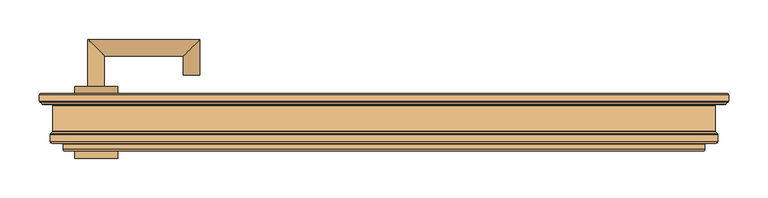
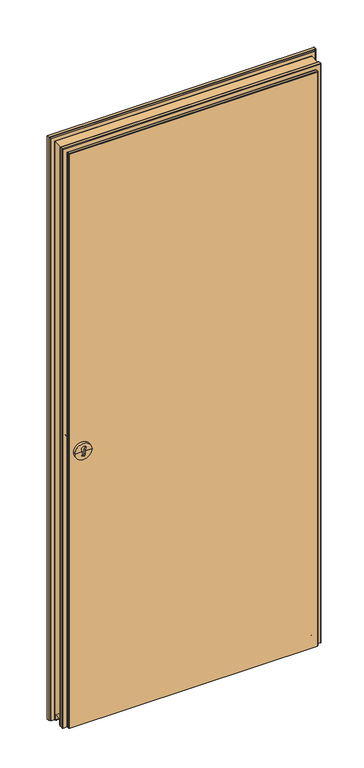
"""IFC4 building model written with IfcOpenShell, lengths in millimetres: door geometry, Peneder_HIGHLINEflat_1-flügelig_V2019 : Zargentyp - 01 - Eck 60 DN."""

from ifc_helpers import new_model, si_unit, frame, origin, place, context, project, spatial, polyline, circle_curve, ellipse_curve, source, transform, mapped, element, save
from ifc_brep_helpers import plane_surface, cylinder_surface, revolved_surface, advanced_brep


def door_c84f8a6b(model_context):
    return source(origin(), model_context, "Body", "AdvancedBrep", [
        advanced_brep(
        [(-337.5, 56.0, 958.0), (-392.5, 56.0, 958.0), (-392.5, 65.0, 958.0), (-337.5, 65.0, 958.0), (-360.0, 56.0, 958.0), (-360.0, 56.0, 945.8645067), (-370.0, 56.0, 945.8645067), (-370.0, 56.0, 958.0), (-370.0, 56.0, 960.8645067), (-360.0, 56.0, 960.8645067), (-365.0, 65.0, 958.0), (-370.0, 62.0, 945.8645067), (-360.0, 62.0, 945.8645067), (-360.0, 62.0, 960.8645067), (-370.0, 62.0, 960.8645067)],
        [
            (0, 1, circle_curve(frame((-365.0, 56.0, 958.0), z_axis=(0.0, 1.0, 0.0), x_axis=(-1.0, 0.0, 0.0)), 27.5)),
            (1, 2),
            (2, 3, circle_curve(frame((-365.0, 65.0, 958.0), z_axis=(0.0, -1.0, 0.0), x_axis=(-1.0, 0.0, 0.0)), 27.5)),
            (3, 0),
            (1, 0, circle_curve(frame((-365.0, 56.0, 958.0), z_axis=(0.0, 1.0, 0.0), x_axis=(-1.0, 0.0, 0.0)), 27.5)),
            (3, 2, circle_curve(frame((-365.0, 65.0, 958.0), z_axis=(0.0, -1.0, 0.0), x_axis=(-1.0, 0.0, 0.0)), 27.5)),
            (0, 4),
            (4, 5),
            (5, 6, circle_curve(frame((-365.0, 56.0, 945.8645067), z_axis=(0.0, 1.0, 0.0), x_axis=(-1.0, 0.0, 0.0)), 5.0)),
            (6, 7),
            (7, 1),
            (7, 8),
            (8, 9, circle_curve(frame((-365.0, 56.0, 967.690169), z_axis=(0.0, 1.0, 0.0), x_axis=(-1.0, 0.0, 0.0)), 8.4610677)),
            (9, 4),
            (2, 10),
            (10, 3),
            (11, 12, circle_curve(frame((-365.0, 62.0, 945.8645067), z_axis=(0.0, -1.0, 0.0), x_axis=(-1.0, 0.0, 0.0)), 5.0)),
            (12, 13),
            (13, 14, circle_curve(frame((-365.0, 62.0, 967.690169), z_axis=(0.0, -1.0, 0.0), x_axis=(-1.0, 0.0, 0.0)), 8.4610677)),
            (14, 11),
            (11, 6),
            (5, 12),
            (9, 13),
            (8, 14),
        ],
        [
            cylinder_surface(frame((-365.0, 72.1832023, 958.0), z_axis=(0.0, -1.0, 0.0), x_axis=(-1.0, 0.0, 0.0)), 27.5),
            plane_surface(frame((-365.0, 56.0, 958.0), z_axis=(0.0, -1.0, 0.0), x_axis=(-1.0, 0.0, 0.0))),
            plane_surface(frame((-365.0, 65.0, 958.0), z_axis=(0.0, 1.0, 0.0), x_axis=(-1.0, 0.0, 0.0))),
            plane_surface(frame((-370.0, 62.0, 960.8645067), z_axis=(0.0, -1.0, 0.0), x_axis=(0.0, 0.0, 1.0))),
            revolved_surface(polyline([(-370.0, 62.0, 945.8645067), (-370.0, 56.0, 945.8645067)]), (-365.0, 52.0, 945.8645067), (0.0, 1.0, 0.0)),
            plane_surface(frame((-360.0, 62.0, 960.8645067), z_axis=(-1.0, 0.0, 0.0), x_axis=(0.0, -1.0, 0.0))),
            revolved_surface(polyline([(-373.4610677, 62.0, 967.690169), (-373.4610677, 56.0, 967.690169)]), (-365.0, 52.0, 967.690169), (0.0, 1.0, 0.0)),
            plane_surface(frame((-370.0, 62.0, 945.8645067), z_axis=(1.0, 0.0, 0.0), x_axis=(0.0, -1.0, 0.0))),
        ],
        [
            (0, [[1, 2, 3, 4]]),
            (0, [[-2, 5, -4, 6]]),
            (1, [[-1, 7, 8, 9, 10, 11]]),
            (1, [[-5, -11, 12, 13, 14, -7]]),
            (2, [[-3, 15, 16]]),
            (2, [[-6, -16, -15]]),
            (3, [[17, 18, 19, 20]]),
            (4, [[-17, 21, -9, 22]]),
            (5, [[-18, -22, -8, -14, 23]]),
            (6, [[-19, -23, -13, 24]]),
            (7, [[-20, -24, -12, -10, -21]]),
        ],
    ),
        advanced_brep(
        [(-375.5, 147.0, 1050.0), (-354.5, 147.0, 1050.0), (-354.5, 186.0, 1050.0), (-375.5, 207.0, 1050.0), (-254.5, 186.0, 1050.0), (-233.5, 207.0, 1050.0), (-233.5, 162.0, 1050.0), (-254.5, 162.0, 1050.0)],
        [
            (0, 1, circle_curve(frame((-365.0, 147.0, 1050.0), z_axis=(0.0, -1.0, 0.0), x_axis=(1.0, 0.0, 0.0)), 10.5)),
            (1, 0, circle_curve(frame((-365.0, 147.0, 1050.0), z_axis=(0.0, -1.0, 0.0), x_axis=(1.0, 0.0, 0.0)), 10.5)),
            (1, 2),
            (2, 3, ellipse_curve(frame((-365.0, 196.5, 1050.0), z_axis=(-0.7071067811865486, -0.7071067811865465, 0.0), x_axis=(0.7071067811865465, -0.7071067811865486, 0.0)), 14.8492424, 10.5)),
            (3, 0),
            (3, 2, ellipse_curve(frame((-365.0, 196.5, 1050.0), z_axis=(-0.7071067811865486, -0.7071067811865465, 0.0), x_axis=(0.7071067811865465, -0.7071067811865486, 0.0)), 14.8492424, 10.5)),
            (2, 4),
            (4, 5, ellipse_curve(frame((-244.0, 196.5, 1050.0), z_axis=(-0.7071067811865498, 0.7071067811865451, 0.0), x_axis=(-0.7071067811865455, -0.7071067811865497, 0.0)), 14.8492424, 10.5)),
            (5, 3),
            (5, 4, ellipse_curve(frame((-244.0, 196.5, 1050.0), z_axis=(-0.7071067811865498, 0.7071067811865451, 0.0), x_axis=(-0.7071067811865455, -0.7071067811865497, 0.0)), 14.8492424, 10.5)),
            (6, 7, circle_curve(frame((-244.0, 162.0, 1050.0), z_axis=(0.0, -1.0, 0.0), x_axis=(-1.0, 0.0, 0.0)), 10.5)),
            (7, 6, circle_curve(frame((-244.0, 162.0, 1050.0), z_axis=(0.0, -1.0, 0.0), x_axis=(-1.0, 0.0, 0.0)), 10.5)),
            (4, 7),
            (6, 5),
        ],
        [
            plane_surface(frame((-365.0, 147.0, 1050.0), z_axis=(0.0, -1.0, 0.0), x_axis=(0.0, 0.0, 1.0))),
            cylinder_surface(frame((-365.0, 147.0, 1050.0), z_axis=(0.0, -1.0, 0.0), x_axis=(1.0, 0.0, 0.0)), 10.5),
            cylinder_surface(frame((-365.0, 196.5, 1050.0), z_axis=(-1.0, 0.0, 0.0), x_axis=(0.0, -1.0, 0.0)), 10.5),
            plane_surface(frame((-244.0, 162.0, 1050.0), z_axis=(0.0, -1.0, 0.0), x_axis=(0.0, 0.0, 1.0))),
            cylinder_surface(frame((-244.0, 196.5, 1050.0), z_axis=(0.0, 1.0, 0.0), x_axis=(-1.0, 0.0, 0.0)), 10.5),
        ],
        [
            (0, [[1, 2]]),
            (1, [[3, 4, 5, -2]]),
            (1, [[-5, 6, -3, -1]]),
            (2, [[7, 8, 9, -4]]),
            (2, [[-9, 10, -7, -6]]),
            (3, [[11, 12]]),
            (4, [[13, -11, 14, -8]]),
            (4, [[-14, -12, -13, -10]]),
        ],
    ),
        advanced_brep(
        [(-337.5, 147.0, 1050.0), (-337.5, 138.0, 1050.0), (-392.5, 138.0, 1050.0), (-392.5, 147.0, 1050.0), (-365.0, 147.0, 1050.0), (-365.0, 138.0, 1050.0)],
        [
            (0, 1),
            (1, 2, circle_curve(frame((-365.0, 138.0, 1050.0), z_axis=(0.0, 1.0, 0.0), x_axis=(-1.0, 0.0, 0.0)), 27.5)),
            (2, 3),
            (3, 0, circle_curve(frame((-365.0, 147.0, 1050.0), z_axis=(0.0, -1.0, 0.0), x_axis=(-1.0, 0.0, 0.0)), 27.5)),
            (2, 1, circle_curve(frame((-365.0, 138.0, 1050.0), z_axis=(0.0, 1.0, 0.0), x_axis=(-1.0, 0.0, 0.0)), 27.5)),
            (0, 3, circle_curve(frame((-365.0, 147.0, 1050.0), z_axis=(0.0, -1.0, 0.0), x_axis=(-1.0, 0.0, 0.0)), 27.5)),
            (4, 0),
            (3, 4),
            (1, 5),
            (5, 2),
        ],
        [
            cylinder_surface(frame((-365.0, 120.2392865, 1050.0), z_axis=(0.0, 1.0, 0.0), x_axis=(-1.0, 0.0, 0.0)), 27.5),
            plane_surface(frame((-365.0, 147.0, 1050.0), z_axis=(0.0, 1.0, 0.0), x_axis=(-1.0, 0.0, 0.0))),
            plane_surface(frame((-365.0, 138.0, 1050.0), z_axis=(0.0, -1.0, 0.0), x_axis=(-1.0, 0.0, 0.0))),
        ],
        [
            (0, [[1, 2, 3, 4]]),
            (0, [[-3, 5, -1, 6]]),
            (1, [[7, -4, 8]]),
            (1, [[-8, -6, -7]]),
            (2, [[9, 10, -2]]),
            (2, [[-10, -9, -5]]),
        ],
    ),
        advanced_brep(
        [(-337.5, 147.0, 958.0), (-337.5, 138.0, 958.0), (-392.5, 138.0, 958.0), (-392.5, 147.0, 958.0), (-370.0, 147.0, 958.0), (-370.0, 147.0, 945.8645067), (-360.0, 147.0, 945.8645067), (-360.0, 147.0, 958.0), (-360.0, 147.0, 960.8645067), (-370.0, 147.0, 960.8645067), (-365.0, 138.0, 958.0), (-370.0, 141.0, 945.8645067), (-370.0, 141.0, 960.8645067), (-360.0, 141.0, 960.8645067), (-360.0, 141.0, 945.8645067)],
        [
            (0, 1),
            (1, 2, circle_curve(frame((-365.0, 138.0, 958.0), z_axis=(0.0, 1.0, 0.0), x_axis=(-1.0, 0.0, 0.0)), 27.5)),
            (2, 3),
            (3, 0, circle_curve(frame((-365.0, 147.0, 958.0), z_axis=(0.0, -1.0, 0.0), x_axis=(-1.0, 0.0, 0.0)), 27.5)),
            (2, 1, circle_curve(frame((-365.0, 138.0, 958.0), z_axis=(0.0, 1.0, 0.0), x_axis=(-1.0, 0.0, 0.0)), 27.5)),
            (0, 3, circle_curve(frame((-365.0, 147.0, 958.0), z_axis=(0.0, -1.0, 0.0), x_axis=(-1.0, 0.0, 0.0)), 27.5)),
            (3, 4),
            (4, 5),
            (5, 6, circle_curve(frame((-365.0, 147.0, 945.8645067), z_axis=(0.0, -1.0, 0.0), x_axis=(-1.0, 0.0, 0.0)), 5.0)),
            (6, 7),
            (7, 0),
            (7, 8),
            (8, 9, circle_curve(frame((-365.0, 147.0, 967.690169), z_axis=(0.0, -1.0, 0.0), x_axis=(-1.0, 0.0, 0.0)), 8.4610677)),
            (9, 4),
            (1, 10),
            (10, 2),
            (11, 12),
            (12, 13, circle_curve(frame((-365.0, 141.0, 967.690169), z_axis=(0.0, 1.0, 0.0), x_axis=(-1.0, 0.0, 0.0)), 8.4610677)),
            (13, 14),
            (14, 11, circle_curve(frame((-365.0, 141.0, 945.8645067), z_axis=(0.0, 1.0, 0.0), x_axis=(-1.0, 0.0, 0.0)), 5.0)),
            (14, 6),
            (5, 11),
            (13, 8),
            (12, 9),
        ],
        [
            cylinder_surface(frame((-365.0, 130.8167977, 958.0), z_axis=(0.0, 1.0, 0.0), x_axis=(-1.0, 0.0, 0.0)), 27.5),
            plane_surface(frame((-365.0, 147.0, 958.0), z_axis=(0.0, 1.0, 0.0), x_axis=(-1.0, 0.0, 0.0))),
            plane_surface(frame((-365.0, 138.0, 958.0), z_axis=(0.0, -1.0, 0.0), x_axis=(-1.0, 0.0, 0.0))),
            plane_surface(frame((-370.0, 141.0, 960.8645067), z_axis=(0.0, 1.0, 0.0), x_axis=(0.0, 0.0, 1.0))),
            revolved_surface(polyline([(-370.0, 141.0, 945.8645067), (-370.0, 147.0, 945.8645067)]), (-365.0, 151.0, 945.8645067), (0.0, -1.0, 0.0)),
            plane_surface(frame((-360.0, 141.0, 960.8645067), z_axis=(-1.0, 0.0, 0.0), x_axis=(0.0, 1.0, 0.0))),
            revolved_surface(polyline([(-373.4610677, 141.0, 967.690169), (-373.4610677, 147.0, 967.690169)]), (-365.0, 151.0, 967.690169), (0.0, -1.0, 0.0)),
            plane_surface(frame((-370.0, 141.0, 945.8645067), z_axis=(1.0, 0.0, 0.0), x_axis=(0.0, 1.0, 0.0))),
        ],
        [
            (0, [[1, 2, 3, 4]]),
            (0, [[5, -1, 6, -3]]),
            (1, [[7, 8, 9, 10, 11, -4]]),
            (1, [[-11, 12, 13, 14, -7, -6]]),
            (2, [[15, 16, -2]]),
            (2, [[-16, -15, -5]]),
            (3, [[17, 18, 19, 20]]),
            (4, [[21, -9, 22, -20]]),
            (5, [[23, -12, -10, -21, -19]]),
            (6, [[24, -13, -23, -18]]),
            (7, [[-22, -8, -14, -24, -17]]),
        ],
    ),
        advanced_brep(
        [(405.0, 65.0, 10.0), (-405.0, 65.0, 10.0), (-407.0, 67.0, 10.0), (-407.0, 74.0, 10.0), (-408.0, 75.0, 10.0), (-421.0, 75.0, 10.0), (-423.0, 77.0, 10.0), (-423.0, 86.1715729, 10.0), (-422.4142136, 87.5857864, 10.0), (-420.2928932, 89.7071068, 10.0), (-420.0, 90.4142136, 10.0), (-420.0, 94.5, 10.0), (420.0, 94.5, 10.0), (420.0, 90.4142136, 10.0), (420.2928932, 89.7071068, 10.0), (422.4142136, 87.5857864, 10.0), (423.0, 86.1715729, 10.0), (423.0, 77.0, 10.0), (421.0, 75.0, 10.0), (408.0, 75.0, 10.0), (407.0, 74.0, 10.0), (407.0, 67.0, 10.0), (-437.0, 128.8284271, 10.0), (-437.0, 136.0, 10.0), (-435.0, 138.0, 10.0), (435.0, 138.0, 10.0), (437.0, 136.0, 10.0), (437.0, 128.8284271, 10.0), (436.4142136, 127.4142136, 10.0), (433.5857864, 124.5857864, 10.0), (432.1715729, 124.0, 10.0), (421.0, 124.0, 10.0), (420.0, 123.0, 10.0), (420.0, 119.5, 10.0), (-420.0, 119.5, 10.0), (-420.0, 123.0, 10.0), (-421.0, 124.0, 10.0), (-432.1715729, 124.0, 10.0), (-433.5857864, 124.5857864, 10.0), (-436.4142136, 127.4142136, 10.0), (405.0, 65.0, 1992.0), (-405.0, 65.0, 1992.0), (-407.0, 67.0, 1994.0), (-407.0, 74.0, 1994.0), (-408.0, 75.0, 1995.0), (408.0, 75.0, 1995.0), (421.0, 75.0, 2008.0), (-421.0, 75.0, 2008.0), (-423.0, 77.0, 2010.0), (-423.0, 86.1715729, 2010.0), (-422.4142136, 87.5857864, 2009.4142136), (-420.2928932, 89.7071068, 2007.2928932), (-420.0, 90.4142136, 2007.0), (-420.0, 123.0, 2007.0), (-420.0, 117.5, 12.0), (-420.0, 117.5, 29.5), (-420.0, 116.5, 30.5), (-420.0, 97.5, 30.5), (-420.0, 96.5, 29.5), (-420.0, 96.5, 12.0), (420.0, 96.5, 12.0), (420.0, 123.0, 2007.0), (420.0, 90.4142136, 2007.0), (420.0, 96.5, 29.5), (420.0, 97.5, 30.5), (420.0, 116.5, 30.5), (420.0, 117.5, 29.5), (420.0, 117.5, 12.0), (420.2928932, 89.7071068, 2007.2928932), (422.4142136, 87.5857864, 2009.4142136), (423.0, 86.1715729, 2010.0), (423.0, 77.0, 2010.0), (407.0, 74.0, 1994.0), (407.0, 67.0, 1994.0), (-437.0, 128.8284271, 2024.0), (-437.0, 136.0, 2024.0), (-435.0, 138.0, 2022.0), (435.0, 138.0, 2022.0), (437.0, 136.0, 2024.0), (437.0, 128.8284271, 2024.0), (436.4142136, 127.4142136, 2023.4142136), (433.5857864, 124.5857864, 2020.5857864), (432.1715729, 124.0, 2019.1715729), (-421.0, 124.0, 2008.0), (421.0, 124.0, 2008.0), (-432.1715729, 124.0, 2019.1715729), (-433.5857864, 124.5857864, 2020.5857864), (-436.4142136, 127.4142136, 2023.4142136)],
        [
            (0, 1),
            (1, 2, circle_curve(frame((-405.0, 67.0, 10.0), z_axis=(0.0, 0.0, -1.0), x_axis=(0.0, -1.0, 0.0)), 2.0)),
            (2, 3),
            (3, 4, circle_curve(frame((-408.0, 74.0, 10.0), z_axis=(0.0, 0.0, 1.0), x_axis=(1.0, 0.0, 0.0)), 1.0)),
            (4, 5),
            (5, 6, circle_curve(frame((-421.0, 77.0, 10.0), z_axis=(0.0, 0.0, -1.0), x_axis=(0.0, -1.0, 0.0)), 2.0)),
            (6, 7),
            (7, 8, circle_curve(frame((-421.0, 86.1715729, 10.0), z_axis=(0.0, 0.0, -1.0), x_axis=(-1.0, 0.0, 0.0)), 2.0)),
            (8, 9),
            (9, 10, circle_curve(frame((-421.0, 90.4142136, 10.0), z_axis=(0.0, 0.0, 1.0), x_axis=(0.7071067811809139, -0.7071067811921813, 0.0)), 1.0)),
            (10, 11),
            (11, 12),
            (12, 13),
            (13, 14, circle_curve(frame((421.0, 90.4142136, 10.0), z_axis=(0.0, 0.0, 1.0), x_axis=(-0.707106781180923, -0.7071067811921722, 0.0)), 1.0)),
            (14, 15),
            (15, 16, circle_curve(frame((421.0, 86.1715729, 10.0), z_axis=(0.0, 0.0, -1.0), x_axis=(1.0, 0.0, 0.0)), 2.0)),
            (16, 17),
            (17, 18, circle_curve(frame((421.0, 77.0, 10.0), z_axis=(0.0, 0.0, -1.0), x_axis=(0.0, -1.0, 0.0)), 2.0)),
            (18, 19),
            (19, 20, circle_curve(frame((408.0, 74.0, 10.0), z_axis=(0.0, 0.0, 1.0), x_axis=(-1.0, 0.0, 0.0)), 1.0)),
            (20, 21),
            (21, 0, circle_curve(frame((405.0, 67.0, 10.0), z_axis=(0.0, 0.0, -1.0), x_axis=(0.0, -1.0, 0.0)), 2.0)),
            (22, 23),
            (23, 24, circle_curve(frame((-435.0, 136.0, 10.0), z_axis=(0.0, 0.0, -1.0), x_axis=(-1.0, 0.0, 0.0)), 2.0)),
            (24, 25),
            (25, 26, circle_curve(frame((435.0, 136.0, 10.0), z_axis=(0.0, 0.0, -1.0), x_axis=(1.0, 0.0, 0.0)), 2.0)),
            (26, 27),
            (27, 28, circle_curve(frame((435.0, 128.8284271, 10.0), z_axis=(0.0, 0.0, -1.0), x_axis=(0.7071067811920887, -0.7071067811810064, 0.0)), 2.0)),
            (28, 29),
            (29, 30, circle_curve(frame((432.1715729, 126.0, 10.0), z_axis=(0.0, 0.0, -1.0), x_axis=(0.0, -1.0, 0.0)), 2.0)),
            (30, 31),
            (31, 32, circle_curve(frame((421.0, 123.0, 10.0), z_axis=(0.0, 0.0, 1.0), x_axis=(-1.0, 0.0, 0.0)), 1.0)),
            (32, 33),
            (33, 34),
            (34, 35),
            (35, 36, circle_curve(frame((-421.0, 123.0, 10.0), z_axis=(0.0, 0.0, 1.0), x_axis=(1.0, 0.0, 0.0)), 1.0)),
            (36, 37),
            (37, 38, circle_curve(frame((-432.1715729, 126.0, 10.0), z_axis=(0.0, 0.0, -1.0), x_axis=(0.0, -1.0, 0.0)), 2.0)),
            (38, 39),
            (39, 22, circle_curve(frame((-435.0, 128.8284271, 10.0), z_axis=(0.0, 0.0, -1.0), x_axis=(-0.7071067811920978, -0.7071067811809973, 0.0)), 2.0)),
            (0, 40),
            (40, 41),
            (41, 1),
            (41, 42, ellipse_curve(frame((-405.0, 67.0, 1992.0), z_axis=(-0.7071067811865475, 0.0, -0.7071067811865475), x_axis=(-0.7071067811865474, 0.0, 0.7071067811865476)), 2.8284271, 2.0)),
            (42, 2),
            (42, 43),
            (43, 3),
            (43, 44, ellipse_curve(frame((-408.0, 74.0, 1995.0), z_axis=(0.7071067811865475, 0.0, 0.7071067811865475), x_axis=(0.7071067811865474, 0.0, -0.7071067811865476)), 1.4142136, 1.0)),
            (44, 4),
            (44, 45),
            (45, 19),
            (18, 46),
            (46, 47),
            (47, 5),
            (47, 48, ellipse_curve(frame((-421.0, 77.0, 2008.0), z_axis=(-0.7071067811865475, 0.0, -0.7071067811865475), x_axis=(-0.7071067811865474, 0.0, 0.7071067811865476)), 2.8284271, 2.0)),
            (48, 6),
            (48, 49),
            (49, 7),
            (49, 50, ellipse_curve(frame((-421.0, 86.1715729, 2008.0), z_axis=(-0.7071067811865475, 0.0, -0.7071067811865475), x_axis=(-0.7071067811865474, 0.0, 0.7071067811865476)), 2.8284271, 2.0)),
            (50, 8),
            (50, 51),
            (51, 9),
            (51, 52, ellipse_curve(frame((-421.0, 90.4142136, 2008.0), z_axis=(0.7071067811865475, 0.0, 0.7071067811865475), x_axis=(0.7071067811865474, 0.0, -0.7071067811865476)), 1.4142136, 1.0)),
            (52, 10),
            (52, 53),
            (53, 35),
            (34, 54, circle_curve(frame((-420.0, 119.5, 12.0), z_axis=(-1.0, 0.0, 0.0), x_axis=(0.0, 1.0, 0.0)), 2.0)),
            (54, 55),
            (55, 56, circle_curve(frame((-420.0, 116.5, 29.5), z_axis=(1.0, 0.0, 0.0), x_axis=(0.0, 1.0, 0.0)), 1.0)),
            (56, 57),
            (57, 58, circle_curve(frame((-420.0, 97.5, 29.5), z_axis=(1.0, 0.0, 0.0), x_axis=(0.0, 1.0, 0.0)), 1.0)),
            (58, 59),
            (59, 11, circle_curve(frame((-420.0, 94.5, 12.0), z_axis=(-1.0, 0.0, 0.0), x_axis=(0.0, 1.0, 0.0)), 2.0)),
            (59, 60),
            (60, 12, circle_curve(frame((420.0, 94.5, 12.0), z_axis=(-1.0, 0.0, 0.0), x_axis=(0.0, 1.0, 0.0)), 2.0)),
            (61, 62),
            (62, 13),
            (60, 63),
            (63, 64, circle_curve(frame((420.0, 97.5, 29.5), z_axis=(-1.0, 0.0, 0.0), x_axis=(0.0, 1.0, 0.0)), 1.0)),
            (64, 65),
            (65, 66, circle_curve(frame((420.0, 116.5, 29.5), z_axis=(-1.0, 0.0, 0.0), x_axis=(0.0, 1.0, 0.0)), 1.0)),
            (66, 67),
            (67, 33, circle_curve(frame((420.0, 119.5, 12.0), z_axis=(1.0, 0.0, 0.0), x_axis=(0.0, 1.0, 0.0)), 2.0)),
            (32, 61),
            (62, 68, ellipse_curve(frame((421.0, 90.4142136, 2008.0), z_axis=(-0.7071067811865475, 0.0, 0.7071067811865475), x_axis=(0.7071067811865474, 0.0, 0.7071067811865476)), 1.4142136, 1.0)),
            (68, 14),
            (68, 69),
            (69, 15),
            (69, 70, ellipse_curve(frame((421.0, 86.1715729, 2008.0), z_axis=(0.7071067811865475, 0.0, -0.7071067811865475), x_axis=(-0.7071067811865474, 0.0, -0.7071067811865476)), 2.8284271, 2.0)),
            (70, 16),
            (70, 71),
            (71, 17),
            (71, 46, ellipse_curve(frame((421.0, 77.0, 2008.0), z_axis=(0.7071067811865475, 0.0, -0.7071067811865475), x_axis=(-0.7071067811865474, 0.0, -0.7071067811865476)), 2.8284271, 2.0)),
            (45, 72, ellipse_curve(frame((408.0, 74.0, 1995.0), z_axis=(-0.7071067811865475, 0.0, 0.7071067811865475), x_axis=(0.7071067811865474, 0.0, 0.7071067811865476)), 1.4142136, 1.0)),
            (72, 20),
            (72, 73),
            (73, 21),
            (73, 40, ellipse_curve(frame((405.0, 67.0, 1992.0), z_axis=(0.7071067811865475, 0.0, -0.7071067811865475), x_axis=(-0.7071067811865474, 0.0, -0.7071067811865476)), 2.8284271, 2.0)),
            (74, 75),
            (75, 23),
            (22, 74),
            (75, 76, ellipse_curve(frame((-435.0, 136.0, 2022.0), z_axis=(-0.7071067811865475, 0.0, -0.7071067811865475), x_axis=(-0.7071067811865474, 0.0, 0.7071067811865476)), 2.8284271, 2.0)),
            (76, 24),
            (76, 77),
            (77, 25),
            (77, 78, ellipse_curve(frame((435.0, 136.0, 2022.0), z_axis=(0.7071067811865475, 0.0, -0.7071067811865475), x_axis=(-0.7071067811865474, 0.0, -0.7071067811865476)), 2.8284271, 2.0)),
            (78, 26),
            (78, 79),
            (79, 27),
            (79, 80, ellipse_curve(frame((435.0, 128.8284271, 2022.0), z_axis=(0.7071067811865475, 0.0, -0.7071067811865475), x_axis=(-0.7071067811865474, 0.0, -0.7071067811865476)), 2.8284271, 2.0)),
            (80, 28),
            (80, 81),
            (81, 29),
            (81, 82, ellipse_curve(frame((432.1715729, 126.0, 2019.1715729), z_axis=(0.7071067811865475, 0.0, -0.7071067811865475), x_axis=(-0.7071067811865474, 0.0, -0.7071067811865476)), 2.8284271, 2.0)),
            (82, 30),
            (83, 84),
            (84, 31),
            (82, 85),
            (85, 37),
            (36, 83),
            (84, 61, ellipse_curve(frame((421.0, 123.0, 2008.0), z_axis=(-0.7071067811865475, 0.0, 0.7071067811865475), x_axis=(0.7071067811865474, 0.0, 0.7071067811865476)), 1.4142136, 1.0)),
            (67, 54),
            (53, 83, ellipse_curve(frame((-421.0, 123.0, 2008.0), z_axis=(0.7071067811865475, 0.0, 0.7071067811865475), x_axis=(0.7071067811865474, 0.0, -0.7071067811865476)), 1.4142136, 1.0)),
            (85, 86, ellipse_curve(frame((-432.1715729, 126.0, 2019.1715729), z_axis=(-0.7071067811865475, 0.0, -0.7071067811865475), x_axis=(-0.7071067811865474, 0.0, 0.7071067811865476)), 2.8284271, 2.0)),
            (86, 38),
            (86, 87),
            (87, 39),
            (87, 74, ellipse_curve(frame((-435.0, 128.8284271, 2022.0), z_axis=(-0.7071067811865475, 0.0, -0.7071067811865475), x_axis=(-0.7071067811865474, 0.0, 0.7071067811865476)), 2.8284271, 2.0)),
            (66, 55),
            (65, 56),
            (64, 57),
            (63, 58),
            (78, 75),
            (74, 79),
            (73, 42),
            (87, 80),
            (86, 81),
            (53, 61),
            (52, 62),
            (51, 68),
            (50, 69),
            (49, 70),
            (48, 71),
            (43, 72),
        ],
        [
            plane_surface(frame((437.0, 65.0, 10.0), z_axis=(0.0, 0.0, -1.0), x_axis=(-1.0, 0.0, 0.0))),
            plane_surface(frame((-437.0, 65.0, 2024.0), z_axis=(0.0, -1.0, 0.0), x_axis=(0.0, 0.0, -1.0))),
            cylinder_surface(frame((-405.0, 67.0, 0.0), z_axis=(0.0, 0.0, 1.0), x_axis=(0.0, -1.0, 0.0)), 2.0),
            plane_surface(frame((-407.0, 74.0, 0.0), z_axis=(-1.0, 0.0, 0.0), x_axis=(0.0, 0.0, 1.0))),
            revolved_surface(polyline([(-407.0, 74.0, 10.0), (-407.0, 74.0, 1996.0000000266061)]), (-408.0, 74.0, 0.0), (0.0, 0.0, -1.0)),
            plane_surface(frame((-421.0, 75.0, 0.0), z_axis=(0.0, -1.0, 0.0), x_axis=(0.0, 0.0, 1.0))),
            cylinder_surface(frame((-421.0, 77.0, 0.0), z_axis=(0.0, 0.0, 1.0), x_axis=(0.0, -1.0, 0.0)), 2.0),
            plane_surface(frame((-423.0, 86.1715729, 0.0), z_axis=(-1.0, 0.0, 0.0), x_axis=(0.0, 0.0, 1.0))),
            cylinder_surface(frame((-421.0, 86.1715729, 0.0), z_axis=(0.0, 0.0, 1.0), x_axis=(-1.0, 0.0, 0.0)), 2.0),
            plane_surface(frame((-420.2928932, 89.7071068, 0.0), z_axis=(-0.7071067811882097, 0.7071067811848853, 0.0), x_axis=(0.0, 0.0, 1.0))),
            revolved_surface(polyline([(-420.2928932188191, 89.70710681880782, 10.0), (-420.2928932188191, 89.70710681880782, 2009.0000000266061)]), (-421.0, 90.4142136, 0.0), (0.0, 0.0, -1.0)),
            plane_surface(frame((-420.0, 123.0, 0.0), z_axis=(-1.0, 0.0, 0.0), x_axis=(0.0, 0.0, 1.0))),
            cylinder_surface(frame((437.0, 94.5, 12.0), z_axis=(-1.0, 0.0, 0.0), x_axis=(0.0, 1.0, 0.0)), 2.0),
            plane_surface(frame((420.0, 123.0, 2007.0), z_axis=(1.0, 0.0, 0.0), x_axis=(0.0, 0.0, -1.0))),
            revolved_surface(polyline([(420.2928932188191, 89.70710681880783, 2009.0000000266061), (420.2928932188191, 89.70710681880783, 9.99999999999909)]), (421.0, 90.4142136, 2024.0), (0.0, 0.0, 1.0000000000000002)),
            plane_surface(frame((420.2928932, 89.7071068, 2007.2928932), z_axis=(0.7071067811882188, 0.7071067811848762, 0.0), x_axis=(0.0, 0.0, -1.0))),
            cylinder_surface(frame((421.0, 86.1715729, 2024.0), z_axis=(0.0, 0.0, -1.0), x_axis=(1.0, 0.0, 0.0)), 2.0),
            plane_surface(frame((423.0, 86.1715729, 2010.0), z_axis=(1.0, 0.0, 0.0), x_axis=(0.0, 0.0, -1.0))),
            cylinder_surface(frame((421.0, 77.0, 2024.0), z_axis=(0.0, 0.0, -1.0), x_axis=(0.0, -1.0, 0.0)), 2.0),
            revolved_surface(polyline([(407.0, 74.0, 1996.0000000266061), (407.0, 74.0, 10.0)]), (408.0, 74.0, 2024.0), (0.0, 0.0, 1.0)),
            plane_surface(frame((407.0, 74.0, 1994.0), z_axis=(1.0, 0.0, 0.0), x_axis=(0.0, 0.0, -1.0))),
            cylinder_surface(frame((405.0, 67.0, 2024.0), z_axis=(0.0, 0.0, -1.0), x_axis=(0.0, -1.0, 0.0)), 2.0),
            plane_surface(frame((-437.0, 138.0, 2024.0), z_axis=(-1.0, 0.0, 0.0), x_axis=(0.0, 0.0, -1.0))),
            cylinder_surface(frame((-435.0, 136.0, 0.0), z_axis=(0.0, 0.0, 1.0), x_axis=(-1.0, 0.0, 0.0)), 2.0),
            plane_surface(frame((437.0, 138.0, 2024.0), z_axis=(0.0, 1.0, 0.0), x_axis=(0.0, 0.0, -1.0))),
            cylinder_surface(frame((435.0, 136.0, 2024.0), z_axis=(0.0, 0.0, -1.0), x_axis=(1.0, 0.0, 0.0)), 2.0),
            plane_surface(frame((437.0, 65.0, 2024.0), z_axis=(1.0, 0.0, 0.0), x_axis=(0.0, 0.0, -1.0))),
            cylinder_surface(frame((435.0, 128.8284271, 2024.0), z_axis=(0.0, 0.0, -1.0), x_axis=(0.7071067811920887, -0.7071067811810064, 0.0)), 2.0),
            plane_surface(frame((436.4142136, 127.4142136, 2023.4142136), z_axis=(0.7071067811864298, -0.7071067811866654, 0.0), x_axis=(0.0, 0.0, -1.0))),
            cylinder_surface(frame((432.1715729, 126.0, 2024.0), z_axis=(0.0, 0.0, -1.0), x_axis=(0.0, -1.0, 0.0)), 2.0),
            plane_surface(frame((-432.1715729, 124.0, 0.0), z_axis=(0.0, -1.0, 0.0), x_axis=(0.0, 0.0, 1.0))),
            revolved_surface(polyline([(420.0, 123.0, 2009.0000000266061), (420.0, 123.0, 10.0)]), (421.0, 123.0, 2024.0), (0.0, 0.0, 1.0)),
            cylinder_surface(frame((437.0, 119.5, 12.0), z_axis=(-1.0, 0.0, 0.0), x_axis=(0.0, 1.0, 0.0)), 2.0),
            revolved_surface(polyline([(-420.0, 123.0, 10.0), (-420.0, 123.0, 2009.0000000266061)]), (-421.0, 123.0, 0.0), (0.0, 0.0, -1.0)),
            cylinder_surface(frame((-432.1715729, 126.0, 0.0), z_axis=(0.0, 0.0, 1.0), x_axis=(0.0, -1.0, 0.0)), 2.0),
            plane_surface(frame((-436.4142136, 127.4142136, 0.0), z_axis=(-0.7071067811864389, -0.7071067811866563, 0.0), x_axis=(0.0, 0.0, 1.0))),
            cylinder_surface(frame((-435.0, 128.8284271, 0.0), z_axis=(0.0, 0.0, 1.0000000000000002), x_axis=(-0.7071067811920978, -0.7071067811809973, 0.0)), 2.0),
            plane_surface(frame((437.0, 117.5, 12.0), z_axis=(0.0, -1.0, 0.0), x_axis=(-1.0, 0.0, 0.0))),
            revolved_surface(polyline([(420.0, 117.5, 29.5), (-420.0, 117.5, 29.5)]), (437.0, 116.5, 29.5), (1.0, 0.0, 0.0)),
            plane_surface(frame((437.0, 116.5, 30.5), z_axis=(0.0, 0.0, -1.0), x_axis=(-1.0, 0.0, 0.0))),
            revolved_surface(polyline([(420.0, 98.5, 29.5), (-420.0, 98.5, 29.5)]), (437.0, 97.5, 29.5), (1.0, 0.0, 0.0)),
            plane_surface(frame((437.0, 96.5, 29.5), z_axis=(0.0, 1.0, 0.0), x_axis=(-1.0, 0.0, 0.0))),
            plane_surface(frame((437.0, 65.0, 2024.0), z_axis=(0.0, 0.0, 1.0), x_axis=(1.0, 0.0, 0.0))),
            cylinder_surface(frame((-437.0, 67.0, 1992.0), z_axis=(1.0, 0.0, 0.0), x_axis=(0.0, -1.0, 0.0)), 2.0),
            cylinder_surface(frame((-437.0, 136.0, 2022.0), z_axis=(1.0, 0.0, 0.0), x_axis=(0.0, 0.0, 1.0)), 2.0),
            cylinder_surface(frame((-437.0, 128.8284271, 2022.0), z_axis=(1.0, 0.0, 0.0), x_axis=(0.0, -0.7071067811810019, 0.7071067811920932)), 2.0),
            plane_surface(frame((-436.4142136, 127.4142136, 2023.4142136), z_axis=(0.0, -0.7071067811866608, 0.7071067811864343), x_axis=(1.0, 0.0, 0.0))),
            cylinder_surface(frame((-437.0, 126.0, 2019.1715729), z_axis=(1.0, 0.0, 0.0), x_axis=(0.0, -1.0, 0.0)), 2.0),
            revolved_surface(polyline([(-422.00000002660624, 123.0, 2007.0), (422.00000002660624, 123.0, 2007.0)]), (-437.0, 123.0, 2008.0), (-1.0, 0.0, 0.0)),
            plane_surface(frame((-420.0, 123.0, 2007.0), z_axis=(0.0, 0.0, 1.0), x_axis=(1.0, 0.0, 0.0))),
            revolved_surface(polyline([(-422.00000002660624, 89.70710681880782, 2007.292893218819), (422.00000002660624, 89.70710681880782, 2007.292893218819)]), (-437.0, 90.4142136, 2008.0), (-1.0, 0.0, 0.0)),
            plane_surface(frame((-420.2928932, 89.7071068, 2007.2928932), z_axis=(0.0, 0.7071067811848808, 0.7071067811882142), x_axis=(1.0, 0.0, 0.0))),
            cylinder_surface(frame((-437.0, 86.1715729, 2008.0), z_axis=(1.0, 0.0, 0.0), x_axis=(0.0, 0.0, 1.0)), 2.0),
            plane_surface(frame((-423.0, 86.1715729, 2010.0), z_axis=(0.0, 0.0, 1.0), x_axis=(1.0, 0.0, 0.0))),
            cylinder_surface(frame((-437.0, 77.0, 2008.0), z_axis=(1.0, 0.0, 0.0), x_axis=(0.0, -1.0, 0.0)), 2.0),
            revolved_surface(polyline([(-409.00000002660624, 74.0, 1994.0), (409.00000002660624, 74.0, 1994.0)]), (-437.0, 74.0, 1995.0), (-1.0, 0.0, 0.0)),
            plane_surface(frame((-407.0, 74.0, 1994.0), z_axis=(0.0, 0.0, 1.0), x_axis=(1.0, 0.0, 0.0))),
        ],
        [
            (0, [[1, 2, 3, 4, 5, 6, 7, 8, 9, 10, 11, 12, 13, 14, 15, 16, 17, 18, 19, 20, 21, 22]]),
            (0, [[23, 24, 25, 26, 27, 28, 29, 30, 31, 32, 33, 34, 35, 36, 37, 38, 39, 40]]),
            (1, [[-1, 41, 42, 43]]),
            (2, [[44, 45, -2, -43]]),
            (3, [[46, 47, -3, -45]]),
            (4, [[48, 49, -4, -47]]),
            (5, [[50, 51, -19, 52, 53, 54, -5, -49]]),
            (6, [[55, 56, -6, -54]]),
            (7, [[57, 58, -7, -56]]),
            (8, [[59, 60, -8, -58]]),
            (9, [[61, 62, -9, -60]]),
            (10, [[63, 64, -10, -62]]),
            (11, [[65, 66, -35, 67, 68, 69, 70, 71, 72, 73, -11, -64]]),
            (12, [[74, 75, -12, -73]]),
            (13, [[76, 77, -13, -75, 78, 79, 80, 81, 82, 83, -33, 84]]),
            (14, [[85, 86, -14, -77]]),
            (15, [[87, 88, -15, -86]]),
            (16, [[89, 90, -16, -88]]),
            (17, [[91, 92, -17, -90]]),
            (18, [[93, -52, -18, -92]]),
            (19, [[94, 95, -20, -51]]),
            (20, [[96, 97, -21, -95]]),
            (21, [[98, -41, -22, -97]]),
            (22, [[99, 100, -23, 101]]),
            (23, [[102, 103, -24, -100]]),
            (24, [[-25, -103, 104, 105]]),
            (25, [[106, 107, -26, -105]]),
            (26, [[108, 109, -27, -107]]),
            (27, [[110, 111, -28, -109]]),
            (28, [[112, 113, -29, -111]]),
            (29, [[114, 115, -30, -113]]),
            (30, [[116, 117, -31, -115, 118, 119, -37, 120]]),
            (31, [[121, -84, -32, -117]]),
            (32, [[122, -67, -34, -83]]),
            (33, [[123, -120, -36, -66]]),
            (34, [[124, 125, -38, -119]]),
            (35, [[126, 127, -39, -125]]),
            (36, [[128, -101, -40, -127]]),
            (37, [[129, -68, -122, -82]]),
            (38, [[130, -69, -129, -81]]),
            (39, [[131, -70, -130, -80]]),
            (40, [[132, -71, -131, -79]]),
            (41, [[-74, -72, -132, -78]]),
            (42, [[-108, 133, -99, 134]]),
            (43, [[-44, -42, -98, 135]]),
            (44, [[-102, -133, -106, -104]]),
            (45, [[-128, 136, -110, -134]]),
            (46, [[-126, 137, -112, -136]]),
            (47, [[-124, -118, -114, -137]]),
            (48, [[-116, -123, 138, -121]]),
            (49, [[-65, 139, -76, -138]]),
            (50, [[-63, 140, -85, -139]]),
            (51, [[-61, 141, -87, -140]]),
            (52, [[-59, 142, -89, -141]]),
            (53, [[-57, 143, -91, -142]]),
            (54, [[-55, -53, -93, -143]]),
            (55, [[-50, -48, 144, -94]]),
            (56, [[-46, -135, -96, -144]]),
        ],
    ),
    ])


if __name__ == "__main__":
    model = new_model("IFC4")
    model_context = context("Model", 3, world=origin())
    ifc_project = project(units=[si_unit("LENGTHUNIT", "METRE", prefix="MILLI")], contexts=[model_context])
    site = spatial("IfcSite", under=ifc_project)
    building = spatial("IfcBuilding", under=site)
    placement = place(None, origin())
    door_shape = door_c84f8a6b(model_context)
    element("IfcDoor", 1, ObjectType="Peneder_HIGHLINEflat_1-flügelig_V2019 : Zargentyp - 01 - Eck 60 DN", at=placement, inside=building, context=model_context, shape_type="MappedRepresentation", body=[
        mapped(door_shape, transform((0.0, 0.0, 0.0), x_axis=(1.0, 0.0, 0.0), y_axis=(0.0, 1.0, 0.0), z_axis=(0.0, 0.0, 1.0))),
    ])
    save(model, "model.ifc")
